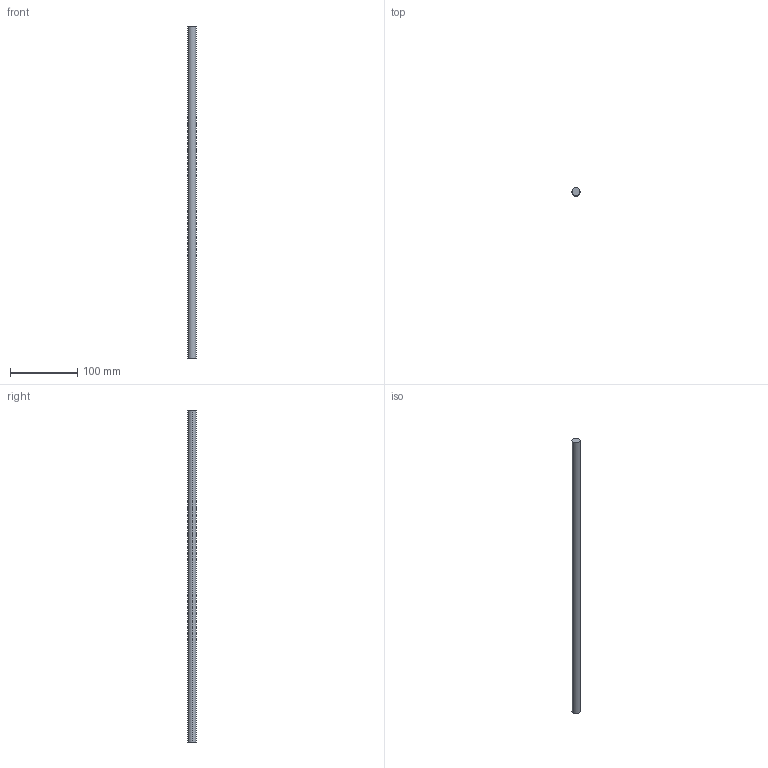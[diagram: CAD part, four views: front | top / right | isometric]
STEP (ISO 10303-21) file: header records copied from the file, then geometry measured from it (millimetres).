
FILE_DESCRIPTION (( 'STEP AP214' ), '1' );
FILE_NAME ('Magic Reling quer - S16_S17 - 600.step', '2010-09-07T14:56:07', ( 'grass' ), ( '' ), 'SwSTEP 2.0', 'SolidWorks 2010', '' );
FILE_SCHEMA (( 'AUTOMOTIVE_DESIGN' ));
Length unit declared in the file: millimetre
Products named in the file (1): Magic Reling quer - S16_S17 - 600
Bounding box: 12 x 12 x 495 mm (x, y, z)
Volume: 55983.2 mm3; surface area: 18887.3 mm2
Topology: 1 solids, 1 shells, 4 faces, 6 edges, 4 vertices
Faces by surface type: cylinder 2, plane 2
Entity records: 128 total; most frequent: DIRECTION 20, CARTESIAN_POINT 15, ORIENTED_EDGE 12, AXIS2_PLACEMENT_3D 9, EDGE_CURVE 6, VERTEX_POINT 4, ADVANCED_FACE 4, EDGE_LOOP 4
